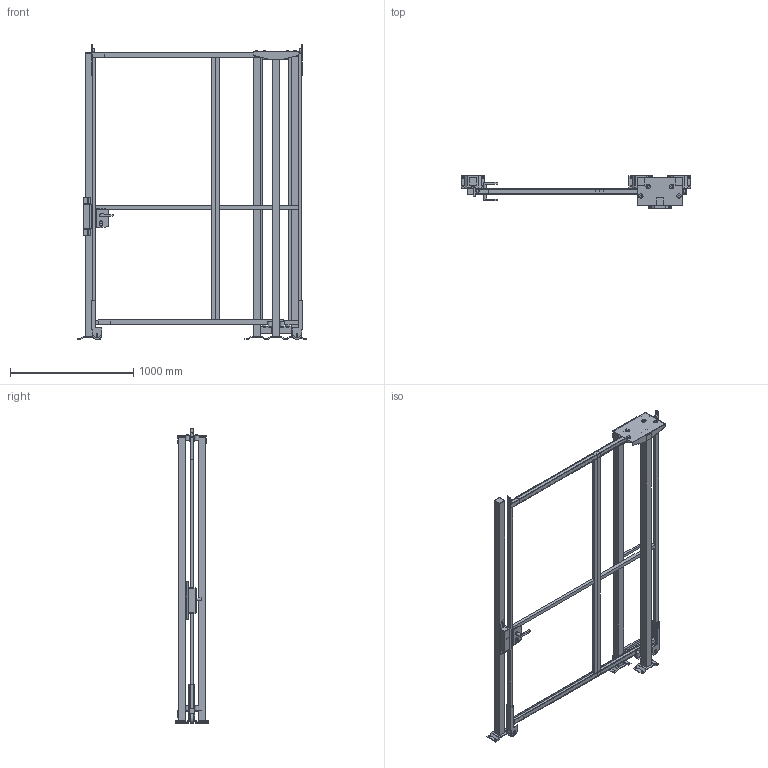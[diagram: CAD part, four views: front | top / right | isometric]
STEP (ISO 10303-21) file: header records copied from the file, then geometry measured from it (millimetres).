
FILE_DESCRIPTION(/* description */ (''),/* implementation_level */ '2;1');
FILE_NAME(/* name */ 'C:\SafeGuarding\ELABORATI\KLADKOUGAMMA_2025-03-21-08-58-57.stp',/* time_stamp */ '2025-03-21T08:59:02+01:00',/* author */ ('admin'),/* organization */ (''),/* preprocessor_version */ 'ST-DEVELOPER v18.1',/* originating_system */ 'AutoCAD Mechanical',/* authorisation */ '');
FILE_SCHEMA (('AUTOMOTIVE_DESIGN { 1 0 10303 214 3 1 1 }'));
Length unit declared in the file: millimetre
Products named in the file (5): Product; R_VFPA.REPE30.07002200; R_VFPA.REPE30.10002200; R_VFPA.REPE20.02502200; P_VFMA.V260SDU.2320
Assembly tree (7 placements, depth 2):
  Product
    R_VFPA.REPE30.07002200
    R_VFPA.REPE30.10002200
    P_VFMA.V260SDU.2320  x4
    R_VFPA.REPE20.02502200
Bounding box: 1861.92 x 264 x 2390.02 mm (x, y, z)
Volume: 52153157.4 mm3; surface area: 6756288.9 mm2
Topology: 67 solids, 67 shells, 602 faces, 1711 edges, 1654 vertices
Faces by surface type: plane 524, cylinder 74, bspline 4
Full cylindrical faces by diameter (mm): 9 x4, 11 x16, 13 x4, 18 x1, 25 x2, 25.398 x2, 30 x6, 36 x8, 80 x2
Entity records: 17809 total; most frequent: CARTESIAN_POINT 4607, DIRECTION 2631, ORIENTED_EDGE 2350, LINE 1191, VECTOR 1191, EDGE_CURVE 1175, VERTEX_POINT 790, AXIS2_PLACEMENT_3D 720
